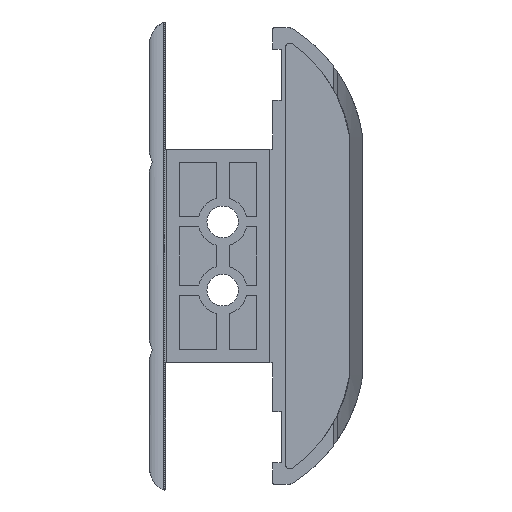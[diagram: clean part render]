
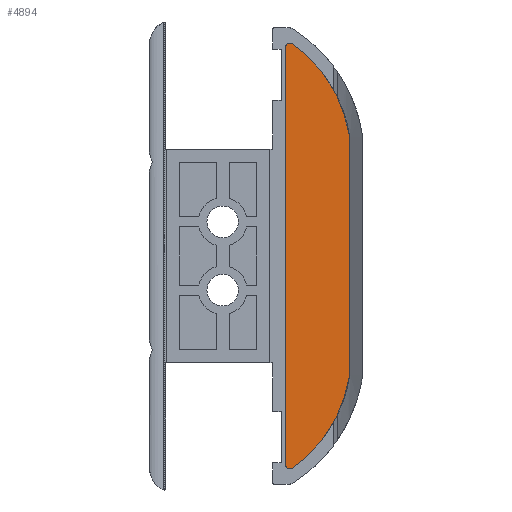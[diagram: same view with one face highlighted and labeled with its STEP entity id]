
A CAD part, front view. The second image highlights one B-rep face of the part: STEP entity #4894.
In plain terms, the highlighted planar face has unit normal (0, -1, 0).
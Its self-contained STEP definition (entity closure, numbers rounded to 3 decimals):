
#331 = DIRECTION ( 'NONE',  ( 0., 0., 1. ) ) ;
#364 = CIRCLE ( 'NONE', #2960, 0.5 ) ;
#394 = DIRECTION ( 'NONE',  ( 0., 0., 1. ) ) ;
#412 = ORIENTED_EDGE ( 'NONE', *, *, #7857, .T. ) ;
#432 = VERTEX_POINT ( 'NONE', #5180 ) ;
#518 = VERTEX_POINT ( 'NONE', #2234 ) ;
#678 = ORIENTED_EDGE ( 'NONE', *, *, #6268, .T. ) ;
#682 = CARTESIAN_POINT ( 'NONE',  ( 3.45, 4.32, 24.425 ) ) ;
#770 = CARTESIAN_POINT ( 'NONE',  ( 7.916, 4.32, 21.243 ) ) ;
#806 = ORIENTED_EDGE ( 'NONE', *, *, #6318, .T. ) ;
#888 = VECTOR ( 'NONE', #7595, 1000. ) ;
#950 = DIRECTION ( 'NONE',  ( -0.601, 0., 0.799 ) ) ;
#988 = VERTEX_POINT ( 'NONE', #6964 ) ;
#1033 = VECTOR ( 'NONE', #331, 1000. ) ;
#1161 = CIRCLE ( 'NONE', #4048, 0.5 ) ;
#1166 = DIRECTION ( 'NONE',  ( 0., -1., 0. ) ) ;
#1653 = DIRECTION ( 'NONE',  ( 0., 0., 1. ) ) ;
#1966 = EDGE_CURVE ( 'NONE', #988, #2406, #4109, .T. ) ;
#1968 = CARTESIAN_POINT ( 'NONE',  ( 11., 4.32, 13.888 ) ) ;
#2004 = DIRECTION ( 'NONE',  ( 0., 0., 1. ) ) ;
#2041 = DIRECTION ( 'NONE',  ( 0., -1., 0. ) ) ;
#2234 = CARTESIAN_POINT ( 'NONE',  ( 7.916, 4.32, -21.243 ) ) ;
#2292 = PLANE ( 'NONE',  #4629 ) ;
#2293 = CIRCLE ( 'NONE', #2404, 16.5 ) ;
#2320 = CARTESIAN_POINT ( 'NONE',  ( -5.308, 4.32, -11.375 ) ) ;
#2384 = DIRECTION ( 'NONE',  ( 0., 1., 0. ) ) ;
#2400 = DIRECTION ( 'NONE',  ( 0., 0., -1. ) ) ;
#2404 = AXIS2_PLACEMENT_3D ( 'NONE', #5125, #4636, #1653 ) ;
#2406 = VERTEX_POINT ( 'NONE', #682 ) ;
#2444 = LINE ( 'NONE', #3707, #888 ) ;
#2460 = LINE ( 'NONE', #3134, #1033 ) ;
#2466 = VERTEX_POINT ( 'NONE', #3004 ) ;
#2537 = AXIS2_PLACEMENT_3D ( 'NONE', #2654, #6375, #394 ) ;
#2596 = CARTESIAN_POINT ( 'NONE',  ( 7.843, 4.32, 21.341 ) ) ;
#2645 = ORIENTED_EDGE ( 'NONE', *, *, #9675, .T. ) ;
#2654 = CARTESIAN_POINT ( 'NONE',  ( -5.308, 4.32, -11.375 ) ) ;
#2686 = VERTEX_POINT ( 'NONE', #8581 ) ;
#2742 = CARTESIAN_POINT ( 'NONE',  ( 3.95, 4.32, -24.425 ) ) ;
#2960 = AXIS2_PLACEMENT_3D ( 'NONE', #3312, #7759, #5553 ) ;
#3004 = CARTESIAN_POINT ( 'NONE',  ( 11., 4.32, -13.888 ) ) ;
#3070 = DIRECTION ( 'NONE',  ( 0., 0., 1. ) ) ;
#3134 = CARTESIAN_POINT ( 'NONE',  ( 11., 4.32, 13.888 ) ) ;
#3312 = CARTESIAN_POINT ( 'NONE',  ( 3.95, 4.32, 24.425 ) ) ;
#3680 = EDGE_CURVE ( 'NONE', #6244, #432, #7912, .T. ) ;
#3707 = CARTESIAN_POINT ( 'NONE',  ( 7.843, 4.32, -21.341 ) ) ;
#3772 = CARTESIAN_POINT ( 'NONE',  ( 3.45, 4.32, 26.207 ) ) ;
#3796 = CIRCLE ( 'NONE', #9671, 16.5 ) ;
#3963 = VERTEX_POINT ( 'NONE', #6761 ) ;
#4048 = AXIS2_PLACEMENT_3D ( 'NONE', #2742, #9421, #2004 ) ;
#4068 = AXIS2_PLACEMENT_3D ( 'NONE', #7186, #1166, #6482 ) ;
#4100 = EDGE_CURVE ( 'NONE', #2466, #4443, #2460, .T. ) ;
#4109 = LINE ( 'NONE', #3772, #8471 ) ;
#4214 = CIRCLE ( 'NONE', #4068, 16.5 ) ;
#4435 = EDGE_CURVE ( 'NONE', #988, #6278, #1161, .T. ) ;
#4443 = VERTEX_POINT ( 'NONE', #1968 ) ;
#4498 = CARTESIAN_POINT ( 'NONE',  ( 3.95, 4.32, 24.425 ) ) ;
#4629 = AXIS2_PLACEMENT_3D ( 'NONE', #2320, #2384, #3070 ) ;
#4636 = DIRECTION ( 'NONE',  ( 0., -1., 0. ) ) ;
#4894 = ADVANCED_FACE ( 'NONE', ( #8235 ), #2292, .F. ) ;
#4922 = ORIENTED_EDGE ( 'NONE', *, *, #4435, .T. ) ;
#5125 = CARTESIAN_POINT ( 'NONE',  ( -5.308, 4.32, -11.375 ) ) ;
#5180 = CARTESIAN_POINT ( 'NONE',  ( 7.843, 4.32, 21.341 ) ) ;
#5238 = AXIS2_PLACEMENT_3D ( 'NONE', #4498, #2041, #6750 ) ;
#5306 = DIRECTION ( 'NONE',  ( 0., 0., 1. ) ) ;
#5553 = DIRECTION ( 'NONE',  ( 0., 0., 1. ) ) ;
#6007 = CIRCLE ( 'NONE', #2537, 16.5 ) ;
#6206 = EDGE_CURVE ( 'NONE', #6278, #6549, #2293, .T. ) ;
#6244 = VERTEX_POINT ( 'NONE', #770 ) ;
#6268 = EDGE_CURVE ( 'NONE', #432, #3963, #4214, .T. ) ;
#6278 = VERTEX_POINT ( 'NONE', #8582 ) ;
#6318 = EDGE_CURVE ( 'NONE', #518, #2466, #6007, .T. ) ;
#6375 = DIRECTION ( 'NONE',  ( 0., -1., 0. ) ) ;
#6482 = DIRECTION ( 'NONE',  ( 0., 0., -1. ) ) ;
#6549 = VERTEX_POINT ( 'NONE', #6665 ) ;
#6570 = CIRCLE ( 'NONE', #5238, 0.5 ) ;
#6665 = CARTESIAN_POINT ( 'NONE',  ( 7.843, 4.32, -21.341 ) ) ;
#6750 = DIRECTION ( 'NONE',  ( 0., 0., 1. ) ) ;
#6761 = CARTESIAN_POINT ( 'NONE',  ( 4.239, 4.32, 24.832 ) ) ;
#6773 = ORIENTED_EDGE ( 'NONE', *, *, #3680, .T. ) ;
#6826 = ORIENTED_EDGE ( 'NONE', *, *, #6206, .T. ) ;
#6931 = DIRECTION ( 'NONE',  ( 0., -1., 0. ) ) ;
#6964 = CARTESIAN_POINT ( 'NONE',  ( 3.45, 4.32, -24.425 ) ) ;
#7086 = EDGE_CURVE ( 'NONE', #3963, #2686, #6570, .T. ) ;
#7186 = CARTESIAN_POINT ( 'NONE',  ( -5.308, 4.32, 11.375 ) ) ;
#7584 = ORIENTED_EDGE ( 'NONE', *, *, #4100, .T. ) ;
#7595 = DIRECTION ( 'NONE',  ( 0.601, 0., 0.799 ) ) ;
#7759 = DIRECTION ( 'NONE',  ( 0., -1., 0. ) ) ;
#7857 = EDGE_CURVE ( 'NONE', #2686, #2406, #364, .T. ) ;
#7912 = LINE ( 'NONE', #2596, #8045 ) ;
#8045 = VECTOR ( 'NONE', #950, 1000. ) ;
#8102 = ORIENTED_EDGE ( 'NONE', *, *, #8464, .T. ) ;
#8235 = FACE_OUTER_BOUND ( 'NONE', #8963, .T. ) ;
#8464 = EDGE_CURVE ( 'NONE', #4443, #6244, #3796, .T. ) ;
#8471 = VECTOR ( 'NONE', #5306, 1000. ) ;
#8477 = CARTESIAN_POINT ( 'NONE',  ( -5.308, 4.32, 11.375 ) ) ;
#8581 = CARTESIAN_POINT ( 'NONE',  ( 3.95, 4.32, 24.925 ) ) ;
#8582 = CARTESIAN_POINT ( 'NONE',  ( 4.239, 4.32, -24.832 ) ) ;
#8882 = ORIENTED_EDGE ( 'NONE', *, *, #7086, .T. ) ;
#8963 = EDGE_LOOP ( 'NONE', ( #9229, #4922, #6826, #2645, #806, #7584, #8102, #6773, #678, #8882, #412 ) ) ;
#9229 = ORIENTED_EDGE ( 'NONE', *, *, #1966, .F. ) ;
#9421 = DIRECTION ( 'NONE',  ( 0., -1., 0. ) ) ;
#9671 = AXIS2_PLACEMENT_3D ( 'NONE', #8477, #6931, #2400 ) ;
#9675 = EDGE_CURVE ( 'NONE', #6549, #518, #2444, .T. ) ;
